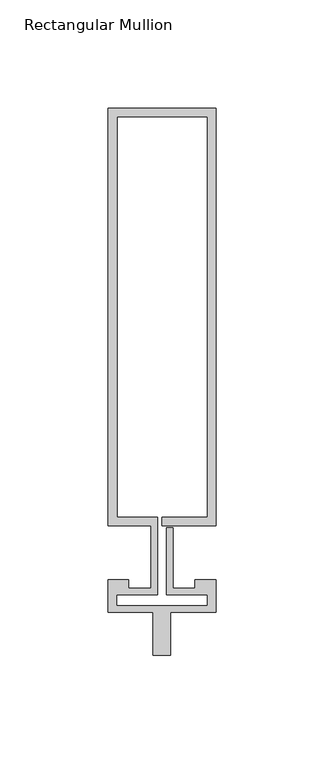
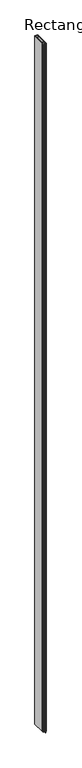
"""IFC4 building model written with IfcOpenShell, lengths in millimetres: member geometry, Rectangular Mullion : Reynaers_CW-50_Mullion-Transom_Horizontal_193.4mm_Facecap-06A."""

import ifcopenshell
import ifcopenshell.guid

model = None  # the IFC model being written
_history = None  # IfcOwnerHistory: only IFC2X3 demands one
_inside = {}  # id of a spatial element -> (the spatial element, [elements in it])
_under = {}  # id of a project, library or spatial element -> (it, [spatial elements below it])
_declared = {}  # id of a project -> (the project, [libraries it declares])
_typed = {}  # id of a type object -> (the type object, [elements of that type])
_made_of = {}  # id of a material, layer set ... -> (it, [elements and type objects made of it])


def new_model(schema):
    """Start an empty IFC model of exactly this schema.

    Asked for "IFC4X3", IfcOpenShell would pick the latest addendum, in which some entities
    have other attributes; the version numbers below select the first issue.
    IFC2X3 requires an IfcOwnerHistory on every rooted entity: one is made here for all.
    """
    global model, _history
    if schema == "IFC4X3":
        model = ifcopenshell.file(schema_version=(4, 3, 0, 0))
    else:
        model = ifcopenshell.file(schema=schema)
    _inside.clear()
    _under.clear()
    _declared.clear()
    _typed.clear()
    _made_of.clear()
    _history = None
    if model.schema == "IFC2X3":
        org = make("IfcOrganization", Name="unknown")
        user = make(
            "IfcPersonAndOrganization",
            ThePerson=make("IfcPerson", FamilyName="unknown"),
            TheOrganization=org,
        )
        app = make(
            "IfcApplication",
            ApplicationDeveloper=org,
            Version="unknown",
            ApplicationFullName="unknown",
            ApplicationIdentifier="unknown",
        )
        _history = make(
            "IfcOwnerHistory",
            OwningUser=user,
            OwningApplication=app,
            ChangeAction="ADDED",
            CreationDate=0,
        )
    return model


def make(cls, **values):
    """One entity of the class cls with the attributes given. An attribute that is None is left unset."""
    return model.create_entity(
        cls, **{name: value for name, value in values.items() if value is not None}
    )


def rooted(cls, **values):
    """An entity with a GlobalId (a new one), such as an element, a storey or a relation."""
    return make(cls, GlobalId=ifcopenshell.guid.new(), OwnerHistory=_history, **values)


def si_unit(unit_type, name, prefix=None):
    """IfcSIUnit, for example si_unit("LENGTHUNIT", "METRE", prefix="MILLI")."""
    return make("IfcSIUnit", UnitType=unit_type, Prefix=prefix, Name=name)


def assignment(units):
    """IfcUnitAssignment: the units of a project."""
    return None if units is None else make("IfcUnitAssignment", Units=units)


def point(xyz):
    """IfcCartesianPoint."""
    return None if xyz is None else make("IfcCartesianPoint", Coordinates=xyz)


def direction(xyz):
    """IfcDirection."""
    return None if xyz is None else make("IfcDirection", DirectionRatios=xyz)


def frame(location, z_axis=None, x_axis=None):
    """IfcAxis2Placement3D, a coordinate frame: its origin and axes. An axis left out is left unset."""
    return make(
        "IfcAxis2Placement3D",
        Location=point(location),
        Axis=direction(z_axis),
        RefDirection=direction(x_axis),
    )


def origin():
    """The frame at (0, 0, 0) with its axes left unset."""
    return frame((0.0, 0.0, 0.0))


def place(relative_to, where):
    """IfcLocalPlacement: puts the frame where relative to a parent placement (None: the world)."""
    return make(
        "IfcLocalPlacement", PlacementRelTo=relative_to, RelativePlacement=where
    )


def context(
    kind, dimensions, precision=None, world=None, true_north=None, identifier=None
):
    """IfcGeometricRepresentationContext, for example the 3D "Model" context."""
    return make(
        "IfcGeometricRepresentationContext",
        ContextIdentifier=identifier,
        ContextType=kind,
        CoordinateSpaceDimension=dimensions,
        Precision=precision,
        WorldCoordinateSystem=world,
        TrueNorth=true_north,
    )


def project(units=None, contexts=None):
    """IfcProject with its units and contexts."""
    return rooted(
        "IfcProject",
        Name="project",
        RepresentationContexts=contexts,
        UnitsInContext=assignment(units),
    )


def spatial(cls, under=None, at=None, **own):
    """A site, building, storey or space (cls), placed at a placement, below another one or the project."""
    s = rooted(cls, ObjectPlacement=at, **own)
    if under is not None:
        _under.setdefault(under.id(), (under, []))[1].append(s)
    return s


def polyline(points):
    """IfcPolyline through the points."""
    return make("IfcPolyline", Points=[point(p) for p in points])


def outline(outer, holes=None, kind="AREA"):
    """IfcArbitraryClosedProfileDef: a profile drawn as a closed curve; with holes, ...WithVoids."""
    if holes is None:
        return make("IfcArbitraryClosedProfileDef", ProfileType=kind, OuterCurve=outer)
    return make(
        "IfcArbitraryProfileDefWithVoids",
        ProfileType=kind,
        OuterCurve=outer,
        InnerCurves=holes,
    )


def extrude(swept, where, along, depth):
    """IfcExtrudedAreaSolid: the profile swept, set in the frame where, extruded along a direction by depth."""
    return make(
        "IfcExtrudedAreaSolid",
        SweptArea=swept,
        Position=where,
        ExtrudedDirection=direction(along),
        Depth=depth,
    )


def shape(context_of_items, identifier, shape_type, items):
    """IfcShapeRepresentation: the items that make up one representation, for example the "Body"."""
    return make(
        "IfcShapeRepresentation",
        ContextOfItems=context_of_items,
        RepresentationIdentifier=identifier,
        RepresentationType=shape_type,
        Items=items,
    )


def source(mapping_origin, context_of_items, identifier, shape_type, items):
    """IfcRepresentationMap: a shape defined once, which mapped items show again and again."""
    return make(
        "IfcRepresentationMap",
        MappingOrigin=mapping_origin,
        MappedRepresentation=shape(context_of_items, identifier, shape_type, items),
    )


def transform(
    local_origin,
    x_axis=None,
    y_axis=None,
    z_axis=None,
    scale=None,
    scale2=None,
    scale3=None,
    uniform=True,
):
    """IfcCartesianTransformationOperator3D, or its non-uniform kind. x_axis, y_axis, z_axis: its Axis1, 2, 3."""
    if uniform:
        return make(
            "IfcCartesianTransformationOperator3D",
            Axis1=direction(x_axis),
            Axis2=direction(y_axis),
            LocalOrigin=point(local_origin),
            Scale=scale,
            Axis3=direction(z_axis),
        )
    return make(
        "IfcCartesianTransformationOperator3DnonUniform",
        Axis1=direction(x_axis),
        Axis2=direction(y_axis),
        LocalOrigin=point(local_origin),
        Scale=scale,
        Axis3=direction(z_axis),
        Scale2=scale2,
        Scale3=scale3,
    )


def mapped(mapping_source, mapping_target):
    """IfcMappedItem: shows the shape of a source again, moved by a transform."""
    return make(
        "IfcMappedItem", MappingSource=mapping_source, MappingTarget=mapping_target
    )


def made_of(thing, what):
    """Note that an element or type object is made of a material, layer set ...; save() writes the relation."""
    if what is not None:
        _made_of.setdefault(what.id(), (what, []))[1].append(thing)
    return thing


def element(
    cls,
    number,
    at=None,
    inside=None,
    cuts=None,
    type_object=None,
    material=None,
    context=None,
    identifier="Body",
    shape_type=None,
    held_by="IfcProductDefinitionShape",
    body=None,
    shapes=None,
    **own,
):
    """One element of the class cls, such as IfcWall. Its Tag is "e" and its number.

    at: its placement. inside: the storey or other place that contains it. cuts: it is an
    opening in that element (IfcRelVoidsElement). A single representation is given by context,
    identifier, shape_type and body (its items); several are given by shapes. held_by: the class
    of the entity that holds the representations. save() writes the other relations.
    """
    e = rooted(cls, Tag="e%d" % number, ObjectPlacement=at, **own)
    if body is not None:
        shapes = [shape(context, identifier, shape_type, body)]
    if shapes is not None:
        e.Representation = make(held_by, Representations=shapes)
    if inside is not None:
        _inside.setdefault(inside.id(), (inside, []))[1].append(e)
    if cuts is not None:
        rooted(
            "IfcRelVoidsElement", RelatingBuildingElement=cuts, RelatedOpeningElement=e
        )
    if type_object is not None:
        _typed.setdefault(type_object.id(), (type_object, []))[1].append(e)
    return made_of(e, material)


def aggregate(whole, parts):
    """IfcRelAggregates: a whole, such as a stair, and the parts it consists of."""
    return rooted("IfcRelAggregates", RelatingObject=whole, RelatedObjects=parts)


def save(model, path):
    """Write the relations noted so far, then the file.

    IfcRelAggregates (storeys below a building ...), IfcRelContainedInSpatialStructure (elements
    in a storey), IfcRelDefinesByType, IfcRelAssociatesMaterial and IfcRelDeclares: one each for
    every whole, place, type object, material and project.
    """
    for whole, parts in _under.values():
        aggregate(whole, parts)
    for where, things in _inside.values():
        rooted(
            "IfcRelContainedInSpatialStructure",
            RelatedElements=things,
            RelatingStructure=where,
        )
    for kind, things in _typed.values():
        rooted("IfcRelDefinesByType", RelatedObjects=things, RelatingType=kind)
    for what, things in _made_of.values():
        rooted("IfcRelAssociatesMaterial", RelatedObjects=things, RelatingMaterial=what)
    for by, libraries in _declared.values():
        rooted("IfcRelDeclares", RelatingContext=by, RelatedDefinitions=libraries)
    model.write(path)


def rectangular_mullion_ef87ac82(model_context):
    return source(origin(), model_context, "Body", "SweptSolid", [
        extrude(outline(polyline([(-24.8004059, 205.9), (25.1995941, 205.9), (25.1995941, 12.5), (0.0, 12.5), (0.0, 16.5), (21.1995941, 16.5), (21.1995941, 201.9), (-20.8004059, 201.9), (-20.8004059, 16.5), (-1.9004059, 16.5), (-1.9004059, -19.5), (-20.994845, -19.5), (-20.994845, -24.4191338), (21.1995941, -24.4191338), (21.1995941, -19.5), (2.2995941, -19.5), (2.2995941, 11.5), (5.2995941, 11.5), (5.2995941, -16.5), (15.2996495, -16.5), (15.2996495, -12.5), (25.1995941, -12.5), (25.1995941, -27.5), (4.004855, -27.5), (4.004855, -47.5), (-3.995145, -47.5), (-3.995145, -27.5), (-24.994845, -27.5), (-24.994845, -12.5), (-15.2996495, -12.5), (-15.2996495, -16.5), (-4.9004059, -16.5), (-4.9004059, 12.5), (-24.8004059, 12.5), (-24.8004059, 205.9)])), frame((0.0, 0.0, -12000.0), z_axis=(0.0, 0.0, 1.0), x_axis=(1.0, 0.0, 0.0)), (0.0, 0.0, 1.0), 12000.0),
    ])


if __name__ == "__main__":
    model = new_model("IFC4")
    model_context = context("Model", 3, world=origin())
    ifc_project = project(units=[si_unit("LENGTHUNIT", "METRE", prefix="MILLI")], contexts=[model_context])
    site = spatial("IfcSite", under=ifc_project)
    building = spatial("IfcBuilding", under=site)
    placement = place(None, origin())
    rectangular_mullion_shape = rectangular_mullion_ef87ac82(model_context)
    element("IfcMember", 1, ObjectType="Rectangular Mullion : Reynaers_CW-50_Mullion-Transom_Horizontal_193.4mm_Facecap-06A", at=placement, inside=building, context=model_context, shape_type="MappedRepresentation", body=[
        mapped(rectangular_mullion_shape, transform((0.0, 0.0, 0.0), x_axis=(1.0, 0.0, 0.0), y_axis=(0.0, 1.0, 0.0), z_axis=(0.0, 0.0, 1.0))),
    ])
    save(model, "model.ifc")
